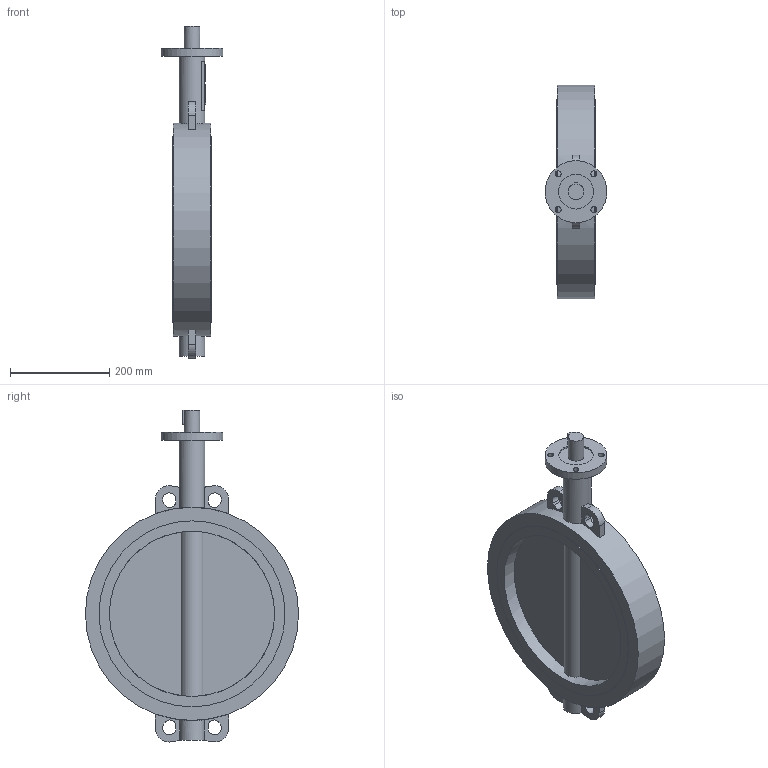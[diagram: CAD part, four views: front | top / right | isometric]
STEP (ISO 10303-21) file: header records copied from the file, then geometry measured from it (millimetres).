
FILE_DESCRIPTION(('STEP AP203'), '1');
FILE_NAME('Çàòâîð 017W.Z(ñòàëü) DN350 PN10_16 áåç èñï. ìåõ-ìà', '', ('UNSPECIFIED'), ('UNSPECIFIED'), 'ASCON STEP Converter 1.6', 'ASCON Math Kernel', '');
FILE_SCHEMA(('CONFIG_CONTROL_DESIGN'));
Length unit declared in the file: millimetre
Bounding box: 125 x 430 x 669.48 mm (x, y, z)
Volume: 7126481.4 mm3; surface area: 543320.7 mm2
Topology: 1 solids, 1 shells, 797 faces, 2302 edges, 1534 vertices
Faces by surface type: cylinder 612, plane 185
Full cylindrical faces by diameter (mm): 12 x4, 31.6 x1, 52 x1, 70 x1, 125 x1, 333.3 x2, 375 x2, 430 x1
Entity records: 33804 total; most frequent: CARTESIAN_POINT 5219, DIRECTION 5104, ORIENTED_EDGE 4578, EDGE_CURVE 2289, AXIS2_PLACEMENT_3D 2030, VERTEX_POINT 1534, CIRCLE 1232, LINE 1044
